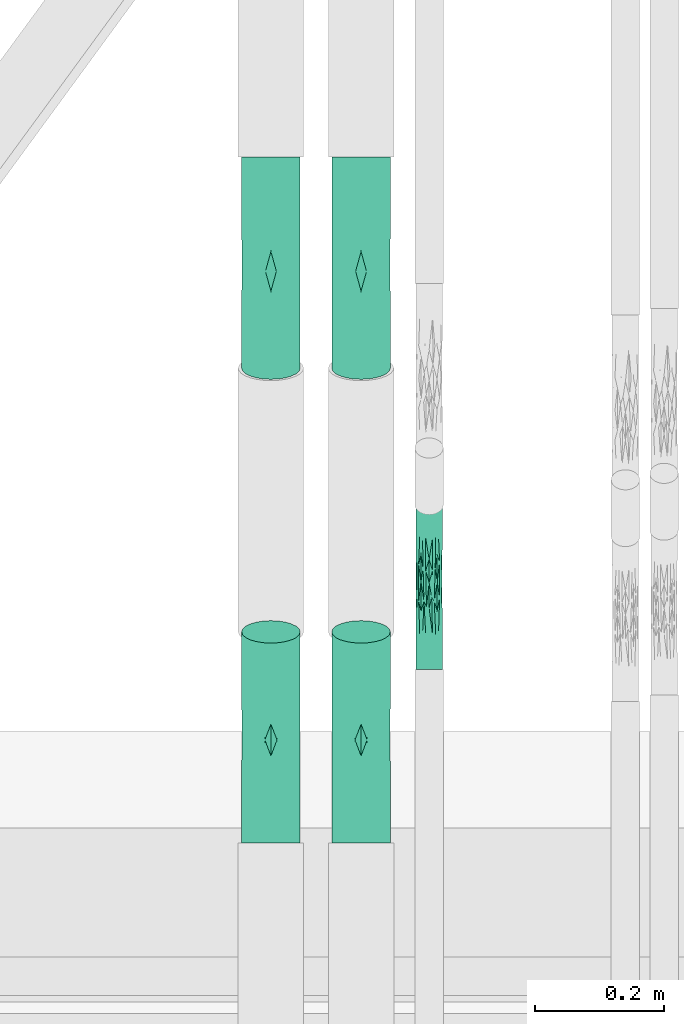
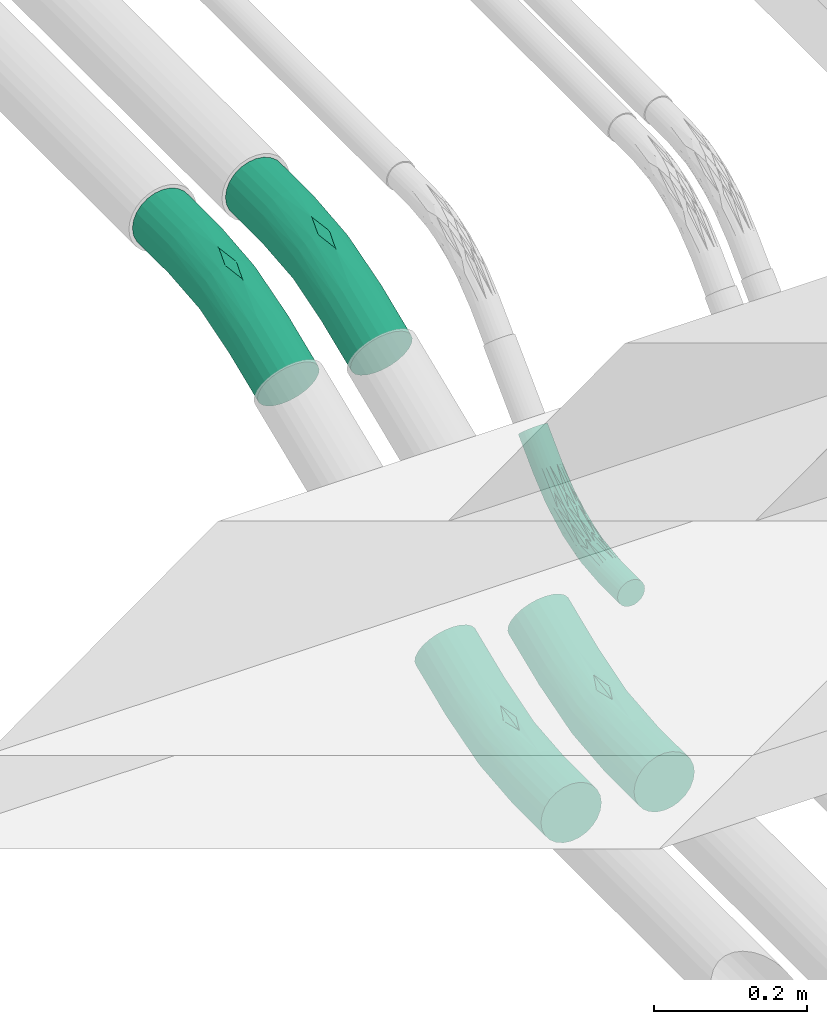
# One storey, part 7 of 18: 5 cable carrier fittings.
"""IFC4 building model written with IfcOpenShell, lengths in centimetres."""

from ifc_helpers import new_model, entity, si_unit, converted_unit, derived_unit, direction, frame, origin, place, context, subcontext, project, spatial, polygons, source, transform, mapped, material, type_object, type_shapes, element, save


model = new_model("IFC4")

# Units and contexts
model_context = context("Model", 3, precision=0.001, world=origin(), true_north=direction((6.123233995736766e-17, 1.0)))
body_context = subcontext(model_context, "Body", "Model", "MODEL_VIEW")
ifc_project = project(units=[si_unit("LENGTHUNIT", "METRE", prefix="CENTI"), si_unit("AREAUNIT", "SQUARE_METRE"), converted_unit("PLANEANGLEUNIT", "DEGREE", entity("IfcPlaneAngleMeasure", 0.017453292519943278), si_unit("PLANEANGLEUNIT", "RADIAN"), dimensions=[0, 0, 0, 0, 0, 0, 0]), si_unit("VOLUMEUNIT", "CUBIC_METRE"), derived_unit("THERMALTRANSMITTANCEUNIT", [(si_unit("MASSUNIT", "GRAM", prefix="KILO"), 1), (si_unit("THERMODYNAMICTEMPERATUREUNIT", "KELVIN"), -1), (si_unit("TIMEUNIT", "SECOND"), -3)])], contexts=[model_context])

# Site, building, storey
site_placement = place(None, frame((-0.003347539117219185, 0.0, 0.0)))
site = spatial("IfcSite", under=ifc_project, at=site_placement, Name="Default", CompositionType="ELEMENT")
building_placement = place(site_placement, origin())
building = spatial("IfcBuilding", under=site, at=building_placement, CompositionType="ELEMENT")
storey_placement = place(building_placement, frame((0.0, 0.0, -30.0)))
storey = spatial("IfcBuildingStorey", under=building, at=storey_placement, Name="Fondation B.O.", CompositionType="ELEMENT", Elevation=-30.0)

# Cable carrier fittings
ifc_material = material(Name="<Unnamed>")
cable_carrier_fitting_type_1 = type_object("IfcCableCarrierFittingType", Name="Courbure de conduit en plastique rigide - Sans raccords:Raccord TPC BT", PredefinedType="NOTDEFINED", material=ifc_material)
shared_shape_1 = source(origin(), body_context, "Body", "Tessellation", [
    polygons([(-14.986257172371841, -2.0500000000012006, -1.936944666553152e-13), (-14.986257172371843, -1.9801479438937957, 0.5305790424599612), (-14.986257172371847, -1.7753520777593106, 1.0249999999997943), (-14.986257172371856, -1.4495689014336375, 1.4495689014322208), (-14.986257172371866, -1.0250000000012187, 1.7753520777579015), (-14.986257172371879, -0.5305790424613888, 1.9801479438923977), (-14.98625717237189, -1.222585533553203e-12, 2.0499999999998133), (-14.986257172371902, 0.5305790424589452, 1.980147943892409), (-14.986257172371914, 1.0249999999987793, 1.7753520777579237), (-14.986257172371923, 1.449568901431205, 1.4495689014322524), (-14.986257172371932, 1.7753520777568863, 1.0249999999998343), (-14.986257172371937, 1.980147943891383, 0.5305790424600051), (-14.986257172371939, 2.0499999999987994, -1.7382326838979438e-13), (-14.986257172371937, 1.9801479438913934, -0.5305790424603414), (-14.986257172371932, 1.775352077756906, -1.0250000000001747), (-14.986257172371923, 1.4495689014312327, -1.449568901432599), (-14.986257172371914, 1.0249999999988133, -1.7753520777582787), (-14.986257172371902, 0.530579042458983, -1.980147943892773), (-14.98625717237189, -1.1851660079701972e-12, -2.0500000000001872), (-14.986257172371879, -0.5305790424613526, -1.9801479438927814), (-14.986257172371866, -1.0250000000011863, -1.7753520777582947), (-14.986257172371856, -1.449568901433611, -1.4495689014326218), (-14.986257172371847, -1.775352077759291, -1.0250000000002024), (-14.986257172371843, -1.980147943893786, -0.5305790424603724), (-9.595257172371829, -2.050000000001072, -1.936944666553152e-13), (-9.595257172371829, -1.9801479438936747, 0.5305790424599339), (-9.595257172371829, -1.775352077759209, 1.0249999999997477), (-9.59525717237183, -1.4495689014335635, 1.4495689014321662), (-9.59525717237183, -1.0250000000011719, 1.7753520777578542), (-9.595257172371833, -0.5305790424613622, 1.9801479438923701), (-9.595257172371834, -1.205083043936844e-12, 2.0499999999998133), (-9.595257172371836, 0.53057904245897, 1.980147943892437), (-9.595257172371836, 1.0249999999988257, 1.7753520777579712), (-9.595257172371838, 1.449568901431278, 1.4495689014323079), (-9.595257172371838, 1.7753520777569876, 1.0249999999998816), (-9.595257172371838, 1.9801479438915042, 0.5305790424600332), (-9.595257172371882, 2.0499999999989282, -1.5925714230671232e-13), (-9.595257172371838, 1.9801479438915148, -0.5305790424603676), (-9.595257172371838, 1.7753520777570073, -1.0250000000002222), (-9.595257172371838, 1.4495689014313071, -1.449568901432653), (-9.595257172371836, 1.0249999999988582, -1.775352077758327), (-9.595257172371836, 0.5305790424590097, -1.9801479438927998), (-9.595257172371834, -1.1640219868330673e-12, -2.0500000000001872), (-9.595257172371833, -0.5305790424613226, -1.9801479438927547), (-9.59525717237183, -1.0250000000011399, -1.7753520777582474), (-9.59525717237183, -1.4495689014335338, -1.4495689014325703), (-9.595257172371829, -1.7753520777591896, -1.0250000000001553), (-9.595257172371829, -1.9801479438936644, -0.5305790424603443), (5.3353025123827, 8.23444031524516, -1.7564403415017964e-13), (2.135608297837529, 5.6085191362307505, -1.7564403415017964e-13), (-1.514896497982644, 3.6572836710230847, -1.7564403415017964e-13), (-5.475925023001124, 2.4557188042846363, -1.7564403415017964e-13), (-4.676054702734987, -1.5655008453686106, -1.9278408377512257e-13), (0.05410557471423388, -0.13062241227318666, -1.9278408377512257e-13), (4.413446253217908, 2.1994937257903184, -1.9278408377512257e-13), (8.234440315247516, 5.335302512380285, -1.9278408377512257e-13), (8.185047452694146, 5.384695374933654, 0.530579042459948), (8.040234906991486, 5.529507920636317, 1.0249999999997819), (7.809871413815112, 5.7598714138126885, 1.4495689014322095), (7.509655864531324, 6.060086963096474, 1.7753520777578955), (7.1600474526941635, 6.409695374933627, 1.9801479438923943), (6.784871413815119, 6.784871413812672, 2.049999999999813), (6.409695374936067, 7.160047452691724, 1.9801479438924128), (6.0600869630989, 7.509655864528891, 1.7753520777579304), (5.759871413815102, 7.809871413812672, 1.449568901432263), (5.529507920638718, 8.040234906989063, 1.0249999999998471), (5.384695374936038, 8.185047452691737, 0.530579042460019), (-0.10367161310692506, 0.25028541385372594, 1.2330496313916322), (-0.42375557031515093, 1.023036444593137, 1.8869118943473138), (-0.8260820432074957, 1.9943384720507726, 2.034693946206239), (-1.34882590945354, 3.256353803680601, 1.2613189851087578), (-3.4146298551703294, 2.903191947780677, 0.525538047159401), (-2.3390473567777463, -0.8887880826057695, 0.6025854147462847), (-3.4263833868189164, -0.4655265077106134, 1.6190374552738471), (1.5037276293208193, 3.717913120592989, 1.8984486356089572), (-3.5914926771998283, 0.5024724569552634, 2.03088400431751), (2.8642046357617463, 2.1600264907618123, 1.6191914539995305), (-3.851737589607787, 2.004374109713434, 1.6333951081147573), (3.4450283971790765, 1.7612266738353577, 0.7738471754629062), (2.421620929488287, 3.0352952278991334, 2.0309571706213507), (1.319345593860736, 4.903018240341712, 0.7941399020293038), (1.8205033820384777, 4.44605516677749, 1.6326748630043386), (-4.413940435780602, 1.382680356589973, 1.8978915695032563), (2.29571018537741, 0.9687458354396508, 0.3733113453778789), (-5.237220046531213, -1.2455176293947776, 1.2412671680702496), (-5.2342834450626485, -1.4605520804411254, 0.896219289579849), (4.583987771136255, 2.8225598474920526, 1.2412671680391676), (-5.412006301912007, -0.42395363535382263, 1.8908253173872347), (4.126646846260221, 3.5270858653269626, 1.8908253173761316), (-5.624080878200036, 0.6066779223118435, 2.0334707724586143), (3.5478396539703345, 4.405811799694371, 2.0334707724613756), (-5.9050969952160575, 1.9402572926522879, 1.2538253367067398), (-3.5827968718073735, 2.689076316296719, 0.9345447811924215), (2.803565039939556, 5.547503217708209, 1.253825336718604), (1.996507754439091, 5.467250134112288, 0.4082971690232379), (5.384695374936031, 8.185047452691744, -0.530579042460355), (5.5295079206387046, 8.040234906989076, -1.0250000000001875), (5.759871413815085, 7.809871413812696, -1.44956890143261), (6.060086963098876, 7.509655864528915, -1.7753520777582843), (6.40969537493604, 7.16004745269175, -1.9801479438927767), (6.784871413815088, 6.7848714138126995, -2.0500000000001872), (7.16004745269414, 6.409695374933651, -1.9801479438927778), (7.5096558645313, 6.060086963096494, -1.7753520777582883), (7.809871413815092, 5.759871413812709, -1.4495689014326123), (8.04023490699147, 5.5295079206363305, -1.025000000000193), (8.18504745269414, 5.384695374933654, -0.5305790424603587), (-0.247234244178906, 0.5968762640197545, -1.6150663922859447), (-0.6211942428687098, 1.4996955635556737, -2.0300422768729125), (-1.0244426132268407, 2.473223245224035, -1.9005495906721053), (-1.3488259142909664, 3.2563537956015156, -1.2613189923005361), (-3.4146300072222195, 2.903191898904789, -0.5255380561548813), (-1.1717457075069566, -0.44242283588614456, -0.7691622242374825), (2.978416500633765, 1.7902780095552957, -1.238342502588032), (2.4818751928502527, 2.470837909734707, -1.8893603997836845), (1.8770621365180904, 3.335443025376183, -2.0339614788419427), (2.293651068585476, 0.9802430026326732, -0.4289681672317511), (1.3062832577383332, 4.140896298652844, -1.633395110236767), (-3.684219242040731, -0.9185438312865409, -1.238835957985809), (-3.698879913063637, -0.05828235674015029, -1.8895129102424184), (-4.0230991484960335, 0.944617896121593, -2.033875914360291), (-4.331099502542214, 1.880867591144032, -1.632798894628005), (1.319345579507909, 4.903018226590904, -0.7941399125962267), (-2.307869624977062, -0.9389201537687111, -0.3694112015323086), (3.4623792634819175, 1.8089172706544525, -0.8473902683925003), (-5.337262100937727, -1.5793580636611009, -0.6535192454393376), (-5.317062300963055, -0.8768377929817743, -1.621320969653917), (4.379748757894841, 3.1397128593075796, -1.6213209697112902), (-5.516415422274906, 0.08210701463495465, -2.0314038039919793), (3.8426363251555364, 3.958753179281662, -2.031403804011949), (-5.7286564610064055, 1.11381627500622, -1.8968849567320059), (3.263184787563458, 4.838358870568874, -1.8968849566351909), (-5.905097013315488, 1.9402572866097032, -1.2538253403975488), (-3.582796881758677, 2.6890763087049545, -0.9345447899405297), (2.8035650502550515, 5.547503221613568, -1.253825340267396), (0.6937690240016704, 4.682722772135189, -0.39399640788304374), (12.046452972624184, 9.147315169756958, -1.9278408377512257e-13), (11.99706011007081, 9.196708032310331, -0.5305790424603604), (11.852247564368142, 9.341520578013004, -1.0250000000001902), (11.62188407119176, 9.571884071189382, -1.4495689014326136), (11.32166852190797, 9.872099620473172, -1.7753520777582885), (10.97206011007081, 10.221708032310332, -1.9801479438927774), (10.596884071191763, 10.59688407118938, -2.0500000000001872), (10.221708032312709, 10.97206011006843, -1.9801479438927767), (9.872099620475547, 11.321668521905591, -1.7753520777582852), (9.571884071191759, 11.621884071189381, -1.4495689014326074), (9.341520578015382, 11.852247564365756, -1.0250000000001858), (9.19670803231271, 11.997060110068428, -0.5305790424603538), (9.147315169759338, 12.0464529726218, -1.6289867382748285e-13), (9.196708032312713, 11.997060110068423, 0.5305790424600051), (9.341520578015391, 11.852247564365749, 1.0249999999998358), (9.571884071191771, 11.621884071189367, 1.4495689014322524), (9.872099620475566, 11.321668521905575, 1.7753520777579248), (10.22170803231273, 10.972060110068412, 1.9801479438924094), (10.596884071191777, 10.596884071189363, 2.0499999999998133), (10.972060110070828, 10.221708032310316, 1.9801479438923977), (11.321668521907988, 9.872099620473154, 1.7753520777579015), (11.621884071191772, 9.57188407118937, 1.4495689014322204), (11.852247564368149, 9.341520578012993, 1.0249999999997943), (11.997060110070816, 9.196708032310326, 0.5305790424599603)], [[[19, 20, 21, 22, 23, 24, 1, 2, 3, 4, 5, 6, 7, 8, 9, 10, 11, 12, 13, 14, 15, 16, 17, 18]], [[2, 1, 25, 26]], [[27, 3, 2, 26]], [[5, 4, 28, 29]], [[27, 28, 4, 3]], [[6, 5, 29, 30]], [[30, 31, 7, 6]], [[9, 8, 32, 33]], [[34, 10, 9, 33]], [[12, 11, 35, 36]], [[34, 35, 11, 10]], [[13, 12, 36, 37]], [[32, 8, 7, 31]], [[14, 13, 37, 38]], [[39, 15, 14, 38]], [[17, 16, 40, 41]], [[39, 40, 16, 15]], [[18, 17, 41, 42]], [[42, 43, 19, 18]], [[21, 20, 44, 45]], [[46, 22, 21, 45]], [[24, 23, 47, 48]], [[46, 47, 23, 22]], [[1, 24, 48, 25]], [[44, 20, 19, 43]], [[60, 61, 89]], [[26, 53, 73]], [[62, 63, 91]], [[85, 28, 27]], [[53, 26, 25]], [[31, 30, 76]], [[29, 88, 30]], [[74, 69, 88]], [[93, 36, 35]], [[90, 32, 31]], [[70, 90, 76]], [[65, 66, 94]], [[75, 78, 83]], [[78, 34, 33]], [[54, 55, 84]], [[35, 34, 92]], [[85, 74, 28]], [[92, 93, 35]], [[71, 92, 78]], [[68, 85, 86]], [[72, 52, 36]], [[52, 72, 51]], [[29, 28, 74]], [[52, 37, 36]], [[26, 73, 86]], [[64, 65, 82]], [[70, 75, 83]], [[68, 87, 77]], [[73, 53, 54]], [[81, 66, 67]], [[60, 77, 59]], [[78, 75, 82]], [[73, 54, 84]], [[70, 76, 80]], [[79, 84, 57]], [[80, 61, 62]], [[94, 81, 71]], [[73, 79, 68]], [[69, 80, 76]], [[74, 77, 69]], [[93, 81, 72]], [[55, 56, 57]], [[82, 65, 94]], [[80, 62, 91]], [[69, 89, 80]], [[51, 72, 95]], [[58, 59, 87]], [[50, 95, 49]], [[88, 76, 30]], [[72, 81, 95]], [[82, 75, 64]], [[71, 78, 82]], [[68, 77, 74]], [[81, 67, 95]], [[83, 33, 32]], [[75, 70, 91]], [[75, 63, 64]], [[77, 60, 89]], [[79, 58, 87]], [[57, 58, 79]], [[83, 32, 90]], [[78, 33, 83]], [[57, 84, 55]], [[73, 84, 79]], [[86, 85, 27]], [[74, 85, 68]], [[26, 86, 27]], [[68, 86, 73]], [[77, 87, 59]], [[79, 87, 68]], [[74, 88, 29]], [[76, 88, 69]], [[80, 89, 61]], [[77, 89, 69]], [[76, 90, 31]], [[83, 90, 70]], [[75, 91, 63]], [[80, 91, 70]], [[78, 92, 34]], [[93, 92, 71]], [[81, 93, 71]], [[93, 72, 36]], [[81, 94, 66]], [[82, 94, 71]], [[49, 95, 67]], [[95, 50, 51]], [[130, 42, 41]], [[113, 118, 107]], [[44, 43, 128]], [[107, 119, 114]], [[41, 40, 121]], [[119, 44, 128]], [[37, 52, 38]], [[51, 50, 135]], [[52, 111, 38]], [[100, 101, 115]], [[39, 132, 40]], [[133, 110, 132]], [[126, 118, 46]], [[43, 42, 120]], [[112, 123, 125]], [[109, 121, 117]], [[53, 25, 48]], [[133, 122, 110]], [[53, 123, 54]], [[134, 122, 97]], [[126, 46, 45]], [[108, 120, 115]], [[111, 133, 38]], [[53, 125, 123]], [[44, 119, 45]], [[118, 112, 125]], [[121, 40, 132]], [[108, 114, 119]], [[111, 52, 51]], [[120, 42, 130]], [[50, 49, 96]], [[113, 104, 105]], [[135, 122, 111]], [[96, 122, 135]], [[102, 103, 114]], [[110, 117, 121]], [[117, 110, 134]], [[98, 99, 117]], [[99, 100, 131]], [[112, 113, 124]], [[106, 55, 116]], [[98, 134, 97]], [[131, 117, 99]], [[131, 115, 109]], [[108, 129, 114]], [[129, 115, 101]], [[113, 107, 127]], [[103, 104, 127]], [[107, 126, 119]], [[101, 102, 129]], [[123, 116, 54]], [[118, 113, 112]], [[56, 55, 106]], [[124, 106, 116]], [[112, 124, 116]], [[54, 116, 55]], [[127, 114, 103]], [[109, 115, 120]], [[108, 128, 120]], [[97, 122, 96]], [[109, 130, 121]], [[47, 46, 118]], [[125, 53, 48]], [[116, 123, 112]], [[113, 105, 124]], [[106, 124, 105]], [[48, 47, 125]], [[118, 125, 47]], [[119, 126, 45]], [[118, 126, 107]], [[113, 127, 104]], [[114, 127, 107]], [[120, 128, 43]], [[119, 128, 108]], [[114, 129, 102]], [[115, 129, 108]], [[121, 130, 41]], [[120, 130, 109]], [[115, 131, 100]], [[117, 131, 109]], [[39, 38, 133]], [[121, 132, 110]], [[39, 133, 132]], [[122, 133, 111]], [[117, 134, 98]], [[122, 134, 110]], [[51, 135, 111]], [[96, 135, 50]], [[146, 147, 148, 149, 150, 151, 152, 153, 154, 155, 156, 157, 158, 159, 136, 137, 138, 139, 140, 141, 142, 143, 144, 145]], [[57, 56, 136, 159]], [[158, 58, 57, 159]], [[60, 59, 157, 156]], [[158, 157, 59, 58]], [[61, 60, 156, 155]], [[155, 154, 62, 61]], [[64, 63, 153, 152]], [[151, 65, 64, 152]], [[67, 66, 150, 149]], [[151, 150, 66, 65]], [[49, 67, 149, 148]], [[153, 63, 62, 154]], [[49, 148, 147, 96]], [[146, 97, 96, 147]], [[144, 143, 100, 99]], [[145, 144, 99, 98]], [[98, 97, 146, 145]], [[143, 142, 101, 100]], [[103, 102, 141, 140]], [[139, 104, 103, 140]], [[106, 105, 138, 137]], [[139, 138, 105, 104]], [[56, 106, 137, 136]], [[141, 102, 101, 142]]], closed=True),
])
type_shapes(cable_carrier_fitting_type_1, [shared_shape_1])
cable_carrier_fitting_placement = place(storey_placement, frame((-5759.585049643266, -2613.2419826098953, -41.0), z_axis=(-1.0, 0.0, 0.0), x_axis=(0.0, -0.7071067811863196, -0.7071067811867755)))
element("IfcCableCarrierFitting", 1, at=cable_carrier_fitting_placement, inside=storey, type_object=cable_carrier_fitting_type_1, material=ifc_material, Name="Courbure de conduit en plastique rigide - Sans raccords:Raccord TPC BT", ObjectType="Courbure de conduit en plastique rigide - Sans raccords:Raccord TPC BT", PredefinedType="NOTDEFINED", context=body_context, shape_type="MappedRepresentation", body=[
    mapped(shared_shape_1, transform((0.0, 0.0, 0.0), scale=1.0)),
])
cable_carrier_fitting_type_2 = type_object("IfcCableCarrierFittingType", Name="Courbure de conduit en plastique rigide - Sans raccords:Raccord TPC HT", PredefinedType="NOTDEFINED", material=ifc_material)
shared_shape_2 = source(origin(), body_context, "Body", "Tessellation", [
    polygons([(-17.03003602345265, -4.550000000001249, -2.0177218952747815e-13), (-17.030036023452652, -4.394962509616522, 1.1776266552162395), (-17.030036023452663, -3.9404155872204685, 2.2749999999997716), (-17.03003602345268, -3.2173358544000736, 3.2173358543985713), (-17.030036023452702, -2.27500000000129, 3.9404155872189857), (-17.03003602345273, -1.177626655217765, 4.394962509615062), (-17.03003602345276, -1.2984319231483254e-12, 4.549999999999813), (-17.030036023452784, 1.1776266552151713, 4.3949625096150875), (-17.030036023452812, 2.274999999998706, 3.9404155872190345), (-17.030036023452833, 3.2173358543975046, 3.217335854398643), (-17.03003602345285, 3.94041558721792, 2.2749999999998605), (-17.030036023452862, 4.394962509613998, 1.1776266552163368), (-17.030036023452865, 4.549999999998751, -1.5766782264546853e-13), (-17.030036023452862, 4.394962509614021, -1.177626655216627), (-17.03003602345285, 3.940415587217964, -2.2750000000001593), (-17.030036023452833, 3.2173358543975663, -3.217335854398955), (-17.030036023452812, 2.2749999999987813, -3.9404155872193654), (-17.030036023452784, 1.1776266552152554, -4.394962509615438), (-17.03003602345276, -1.2153788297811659e-12, -4.550000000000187), (-17.03003602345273, -1.1776266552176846, -4.394962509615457), (-17.030036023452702, -2.2750000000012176, -3.9404155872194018), (-17.03003602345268, -3.217335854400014, -3.217335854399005), (-17.030036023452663, -3.9404155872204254, -2.275000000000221), (-17.030036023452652, -4.394962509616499, -1.1776266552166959), (-8.589036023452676, -4.550000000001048, -2.0177218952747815e-13), (-8.589036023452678, -4.394962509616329, 1.1776266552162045), (-8.589036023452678, -3.9404155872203, 2.274999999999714), (-8.58903602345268, -3.217335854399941, 3.217335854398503), (-8.589036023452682, -2.275000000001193, 3.940415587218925), (-8.589036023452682, -1.1776266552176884, 4.394962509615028), (-8.589036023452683, -1.2345249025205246e-12, 4.549999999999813), (-8.589036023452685, 1.1776266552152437, 4.394962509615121), (-8.589036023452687, 2.274999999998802, 3.9404155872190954), (-8.589036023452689, 3.2173358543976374, 3.2173358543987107), (-8.58903602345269, 3.9404155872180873, 2.27499999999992), (-8.58903602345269, 4.394962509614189, 1.1776266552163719), (-8.589036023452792, 4.549999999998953, -1.2937933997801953e-13), (-8.58903602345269, 4.394962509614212, -1.177626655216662), (-8.58903602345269, 3.9404155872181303, -2.275000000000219), (-8.589036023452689, 3.217335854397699, -3.217335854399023), (-8.589036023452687, 2.2749999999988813, -3.940415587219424), (-8.589036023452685, 1.1776266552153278, -4.394962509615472), (-8.589036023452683, -1.1474305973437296e-12, -4.550000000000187), (-8.589036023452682, -1.1776266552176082, -4.394962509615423), (-8.589036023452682, -2.2750000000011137, -3.940415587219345), (-8.58903602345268, -3.217335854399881, -3.2173358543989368), (-8.589036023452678, -3.940415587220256, -2.275000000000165), (-8.589036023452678, -4.394962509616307, -1.1776266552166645), (6.194024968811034, 7.4905336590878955, -1.5766782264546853e-13), (1.409143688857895, 5.866285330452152, -1.5766782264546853e-13), (-3.546809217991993, 4.880485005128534, -1.5766782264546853e-13), (-2.3590208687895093, -4.141663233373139, -2.0177218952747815e-13), (3.764396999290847, -2.9236396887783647, -2.0177218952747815e-13), (9.67644420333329, -0.9167700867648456, -2.0177218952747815e-13), (9.617113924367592, -0.773534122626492, 1.1776266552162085), (9.443166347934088, -0.3535875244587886, 2.2749999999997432), (9.166455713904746, 0.31445104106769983, 3.2173358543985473), (8.805839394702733, 1.1850558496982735, 3.9404155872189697), (8.385892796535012, 2.1988966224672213, 4.394962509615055), (7.935234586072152, 3.2868817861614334, 4.549999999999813), (7.484576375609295, 4.374866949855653, 4.394962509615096), (7.064629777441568, 5.388707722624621, 3.9404155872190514), (6.704013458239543, 6.259312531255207, 3.2173358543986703), (6.427302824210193, 6.92735109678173, 2.2749999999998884), (6.2533552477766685, 7.347297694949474, 1.1776266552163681), (0.656000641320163, -3.2979379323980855, 1.7294720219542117), (0.706944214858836, -3.5540485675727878, 0.8514533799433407), (0.5406736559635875, -2.718150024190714, 2.759944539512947), (0.3772371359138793, -1.8964991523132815, 3.6022665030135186), (0.17683285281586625, -0.8889987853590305, 4.19901525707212), (-0.04687726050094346, 0.23566790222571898, 4.509509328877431), (-0.2786424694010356, 1.4008302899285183, 4.512581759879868), (-0.502662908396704, 2.5270570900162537, 4.208023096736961), (-0.7036666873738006, 3.5375713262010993, 3.6165956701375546), (-0.8679510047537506, 4.363484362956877, 2.778618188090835), (-0.9843162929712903, 4.948492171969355, 1.7512171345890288), (-1.033546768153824, 5.195990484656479, 0.9400121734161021), (6.2533552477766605, 7.3472976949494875, -1.1776266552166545), (6.4273028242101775, 6.927351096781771, -2.2750000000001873), (6.7040134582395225, 6.2593125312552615, -3.217335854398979), (7.064629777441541, 5.388707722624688, -3.9404155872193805), (7.484576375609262, 4.374866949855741, -4.394962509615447), (7.935234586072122, 3.2868817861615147, -4.550000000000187), (8.385892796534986, 2.198896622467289, -4.394962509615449), (8.805839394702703, 1.1850558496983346, -3.940415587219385), (9.166455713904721, 0.31445104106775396, -3.217335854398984), (9.443166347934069, -0.35358752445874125, -2.2750000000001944), (9.617113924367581, -0.773534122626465, -1.1776266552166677), (0.656000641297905, -3.2979379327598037, -1.7294720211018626), (0.7069442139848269, -3.554048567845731, -0.8514533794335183), (0.5406736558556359, -2.7181500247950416, -2.759944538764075), (0.3772371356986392, -1.896499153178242, -3.6022665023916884), (0.17683285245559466, -0.8889987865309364, -4.199015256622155), (-0.04687726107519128, 0.23566790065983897, -4.5095093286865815), (-0.27864247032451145, 1.400830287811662, -4.512581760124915), (-0.5026629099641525, 2.527057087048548, -4.2080230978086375), (-0.7036666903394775, 3.537571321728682, -3.616595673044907), (-0.8679510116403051, 4.363484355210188, -2.778618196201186), (-0.9843163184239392, 4.948492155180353, -1.751217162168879), (-1.0335469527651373, 5.19599043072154, -0.940012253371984), (17.47491133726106, 2.31346076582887, -1.9975158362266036e-13), (17.415581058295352, 2.4566967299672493, -1.1776266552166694), (17.24163348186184, 2.8766433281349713, -2.2750000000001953), (16.964922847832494, 3.5446818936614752, -3.2173358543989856), (16.604306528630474, 4.415286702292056, -3.9404155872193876), (16.184359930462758, 5.429127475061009, -4.39496250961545), (15.733701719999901, 6.517112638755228, -4.550000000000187), (15.283043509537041, 7.6050978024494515, -4.394962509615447), (14.86309691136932, 8.618938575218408, -3.94041558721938), (14.502480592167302, 9.489543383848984, -3.2173358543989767), (14.22576995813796, 10.157581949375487, -2.275000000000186), (14.051822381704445, 10.577528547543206, -1.177626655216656), (13.992492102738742, 10.720764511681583, -1.3342055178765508e-13), (14.05182238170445, 10.577528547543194, 1.1776266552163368), (14.225769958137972, 10.157581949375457, 2.2749999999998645), (14.502480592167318, 9.489543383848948, 3.217335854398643), (14.86309691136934, 8.618938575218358, 3.940415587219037), (15.283043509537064, 7.605097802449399, 4.394962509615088), (15.733701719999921, 6.517112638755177, 4.549999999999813), (16.18435993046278, 5.429127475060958, 4.394962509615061), (16.604306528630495, 4.41528670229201, 3.9404155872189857), (16.96492284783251, 3.5446818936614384, 3.2173358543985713), (17.24163348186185, 2.876643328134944, 2.2749999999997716), (17.41558105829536, 2.456696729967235, 1.1776266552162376)], [[[17, 18, 19, 20, 21, 22, 23, 24, 1, 2, 3, 4, 5, 6, 7, 8, 9, 10, 11, 12, 13, 14, 15, 16]], [[2, 1, 25, 26]], [[27, 3, 2, 26]], [[5, 4, 28, 29]], [[27, 28, 4, 3]], [[6, 5, 29, 30]], [[30, 31, 7, 6]], [[9, 8, 32, 33]], [[34, 10, 9, 33]], [[12, 11, 35, 36]], [[34, 35, 11, 10]], [[13, 12, 36, 37]], [[32, 8, 7, 31]], [[14, 13, 37, 38]], [[39, 15, 14, 38]], [[17, 16, 40, 41]], [[39, 40, 16, 15]], [[18, 17, 41, 42]], [[42, 43, 19, 18]], [[21, 20, 44, 45]], [[46, 22, 21, 45]], [[24, 23, 47, 48]], [[46, 47, 23, 22]], [[1, 24, 48, 25]], [[44, 20, 19, 43]], [[26, 66, 27]], [[52, 26, 25]], [[26, 67, 66]], [[55, 67, 53]], [[28, 69, 29]], [[68, 28, 27]], [[68, 69, 28]], [[30, 29, 70]], [[71, 31, 30]], [[56, 57, 68]], [[66, 68, 27]], [[69, 70, 29]], [[34, 33, 74]], [[70, 71, 30]], [[75, 35, 34]], [[73, 33, 32]], [[58, 59, 70]], [[71, 72, 31]], [[77, 51, 37]], [[55, 56, 66]], [[37, 36, 77]], [[36, 35, 76]], [[60, 61, 72]], [[32, 31, 72]], [[59, 60, 71]], [[67, 52, 53]], [[57, 58, 69]], [[71, 70, 59]], [[58, 70, 69]], [[49, 77, 65]], [[72, 71, 60]], [[66, 56, 68]], [[57, 69, 68]], [[53, 54, 55]], [[51, 77, 50]], [[73, 74, 33]], [[77, 36, 76]], [[67, 26, 52]], [[50, 77, 49]], [[61, 62, 73]], [[65, 77, 76]], [[75, 76, 35]], [[74, 63, 75]], [[74, 75, 34]], [[64, 76, 75]], [[63, 64, 75]], [[74, 73, 62]], [[73, 72, 61]], [[62, 63, 74]], [[64, 65, 76]], [[66, 67, 55]], [[72, 73, 32]], [[41, 96, 42]], [[100, 38, 37]], [[98, 99, 79]], [[40, 97, 41]], [[51, 100, 37]], [[92, 45, 93]], [[99, 39, 38]], [[88, 90, 89]], [[39, 98, 40]], [[91, 92, 86]], [[99, 38, 100]], [[43, 42, 95]], [[89, 90, 48]], [[52, 25, 48]], [[47, 89, 48]], [[93, 45, 44]], [[47, 46, 91]], [[45, 92, 46]], [[94, 44, 43]], [[91, 46, 92]], [[50, 100, 51]], [[49, 100, 50]], [[49, 78, 100]], [[48, 90, 52]], [[90, 88, 53]], [[79, 99, 78]], [[97, 80, 81]], [[89, 91, 87]], [[81, 82, 96]], [[97, 40, 98]], [[96, 97, 81]], [[80, 98, 79]], [[98, 39, 99]], [[83, 95, 82]], [[93, 84, 85]], [[96, 41, 97]], [[87, 91, 86]], [[85, 86, 92]], [[94, 95, 83]], [[83, 84, 94]], [[52, 90, 53]], [[93, 94, 84]], [[54, 53, 88]], [[92, 93, 85]], [[94, 43, 95]], [[88, 89, 87]], [[95, 42, 96]], [[89, 47, 91]], [[95, 96, 82]], [[78, 99, 100]], [[97, 98, 80]], [[93, 44, 94]], [[107, 108, 109, 110, 111, 112, 113, 114, 115, 116, 117, 118, 119, 120, 121, 122, 123, 124, 101, 102, 103, 104, 105, 106]], [[55, 54, 101, 124]], [[123, 56, 55, 124]], [[58, 57, 122, 121]], [[123, 122, 57, 56]], [[59, 58, 121, 120]], [[120, 119, 60, 59]], [[62, 61, 118, 117]], [[116, 63, 62, 117]], [[65, 64, 115, 114]], [[116, 115, 64, 63]], [[49, 65, 114, 113]], [[118, 61, 60, 119]], [[49, 113, 112, 78]], [[111, 79, 78, 112]], [[80, 110, 109, 81]], [[82, 81, 109, 108]], [[80, 79, 111, 110]], [[108, 107, 83, 82]], [[85, 84, 106, 105]], [[104, 86, 85, 105]], [[88, 87, 103, 102]], [[104, 103, 87, 86]], [[54, 88, 102, 101]], [[106, 84, 83, 107]]], closed=True),
])
type_shapes(cable_carrier_fitting_type_2, [shared_shape_2])
for number, where, z_axis, x_axis in (
    (2, (-5770.152502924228, -2565.7019498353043, -21.0), (1.0, 0.0, 0.0), (0.0, -1.0, 0.0)),
    (3, (-5784.152502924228, -2565.7019498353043, -21.0), (1.0, 0.0, 0.0), (0.0, -1.0, 0.0)),
    (4, (-5784.152502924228, -2638.1283061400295, -50.99997905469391), (-1.0, 0.0, 0.0), (0.0, -0.9238795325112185, -0.3826834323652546)),
    (5, (-5770.152502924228, -2638.128356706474, -51.0), (-1.0, 0.0, 0.0), (0.0, -0.923879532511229, -0.3826834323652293)),
):
    element("IfcCableCarrierFitting", number, at=place(storey_placement, frame(where, z_axis=z_axis, x_axis=x_axis)), inside=storey, type_object=cable_carrier_fitting_type_2, material=ifc_material, Name="Courbure de conduit en plastique rigide - Sans raccords:Raccord TPC HT", ObjectType="Courbure de conduit en plastique rigide - Sans raccords:Raccord TPC HT", PredefinedType="NOTDEFINED", context=body_context, shape_type="MappedRepresentation", body=[
        mapped(shared_shape_2, transform((0.0, 0.0, 0.0), scale=1.0)),
    ])

save(model, "model.ifc")
